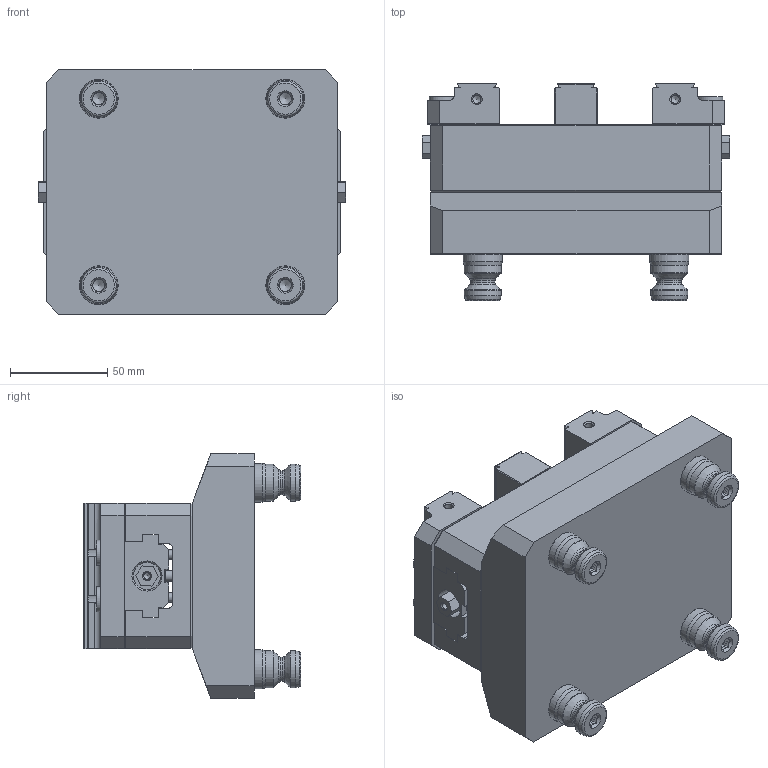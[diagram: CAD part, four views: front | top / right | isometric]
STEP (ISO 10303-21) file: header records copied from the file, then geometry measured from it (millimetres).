
FILE_DESCRIPTION (( 'STEP AP214' ), '1' );
FILE_NAME ('R96-DV75150X-J1_WEBSITE.STEP', '2025-08-12T16:21:32', ( '' ), ( '' ), 'SwSTEP 2.0', 'SolidWorks 2024', '' );
FILE_SCHEMA (( 'AUTOMOTIVE_DESIGN' ));
Length unit declared in the file: inch
Products named in the file (25): HW.76256_WEBSITE_91290A446; HW.76268_WEBSITE_91290A456; DV75150X^DV75150X-J1_WEBSITE; HW.0187.FP_WEBSITE; V75100X-2_WEBSITE_V75100X-2L OP2; D_R96-V75150X-1_WEBSITE; V75100X-5_WEBSITE_HARD OP2; V75150X-1_WEBSITE_FINAL; M10X25.FPSS_WEBSITE_NO HEX; HW.0625X0625.DB_WEBSITE; M5x10.DP_WEBSITE_93600A511; DV75150X-3R_WEBSITE; PS20F_WEBSITE; V75100X-2_WEBSITE_V75100X-2R OP2; DV75150X-HK^DV75150X_DV75150X-J1_WEBSITE; R96-DV75150X-J1_WEBSITE; LC024B05M_WEBSITE_9657K267; HW.76232_WEBSITE_91290A418; LP8_WEBSITE_LP8; V75150-4_WEBSITE; V75100X-5CDV_WEBSITE_MILL OP 4; PS20F-1_WEBSITE_HARD TURN; HW.M8X12.EPSS_WEBSITE_92775A312; HW.450-8_WEBSITE; DV75150X-J1_WEBSITE_DV75150X-J1
Assembly tree (48 placements, depth 5):
  R96-DV75150X-J1_WEBSITE
    D_R96-V75150X-1_WEBSITE
    DV75150X-J1_WEBSITE_DV75150X-J1
      DV75150X^DV75150X-J1_WEBSITE
        HW.M8X12.EPSS_WEBSITE_92775A312  x2
        HW.0187.FP_WEBSITE  x4
        LC024B05M_WEBSITE_9657K267  x4
        V75150X-1_WEBSITE_FINAL
        V75100X-2_WEBSITE_V75100X-2R OP2
        V75150-4_WEBSITE
        V75100X-2_WEBSITE_V75100X-2L OP2
        DV75150X-HK^DV75150X_DV75150X-J1_WEBSITE
          M5x10.DP_WEBSITE_93600A511  x2
          LP8_WEBSITE_LP8  x2
          HW.76232_WEBSITE_91290A418  x8
          HW.76256_WEBSITE_91290A446  x2
          HW.76268_WEBSITE_91290A456  x2
          HW.450-8_WEBSITE  x2
          HW.0625X0625.DB_WEBSITE  x2
      DV75150X-3R_WEBSITE
        V75100X-5_WEBSITE_HARD OP2  x2
        V75100X-5CDV_WEBSITE_MILL OP 4
    PS20F_WEBSITE  x4
      PS20F-1_WEBSITE_HARD TURN
      M10X25.FPSS_WEBSITE_NO HEX
Bounding box: 158 x 111.88 x 125.73 mm (x, y, z)
Volume: 1015368 mm3; surface area: 206493.5 mm2
Topology: 46 solids, 46 shells, 1019 faces, 2262 edges, 1405 vertices
Faces by surface type: plane 528, cylinder 207, cone 206, torus 66, bspline 12
Full cylindrical faces by diameter (mm): 3.454 x1, 4.2 x7, 4.763 x4, 4.915 x4, 5 x4, 5.013 x2, 5.017 x2, 5.052 x2, 5.5 x2, 6.147 x4, 6.8 x18, 8 x16, 8.014 x3, 8.024 x3, 8.271 x4, 8.5 x16, 9 x4, 9.5 x2, 9.652 x2, 10 x8, 10.2 x2, 12 x4, 12.009 x4, 12.497 x4, 12.5 x2, 12.6 x4, 13 x12, 13.5 x8, 13.7 x2, 13.9 x2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
Entity records: 20175 total; most frequent: CARTESIAN_POINT 4563, DIRECTION 2476, ORIENTED_EDGE 1920, EDGE_CURVE 960, AXIS2_PLACEMENT_3D 957, EDGE_LOOP 860, VERTEX_POINT 722, FACE_OUTER_BOUND 691
